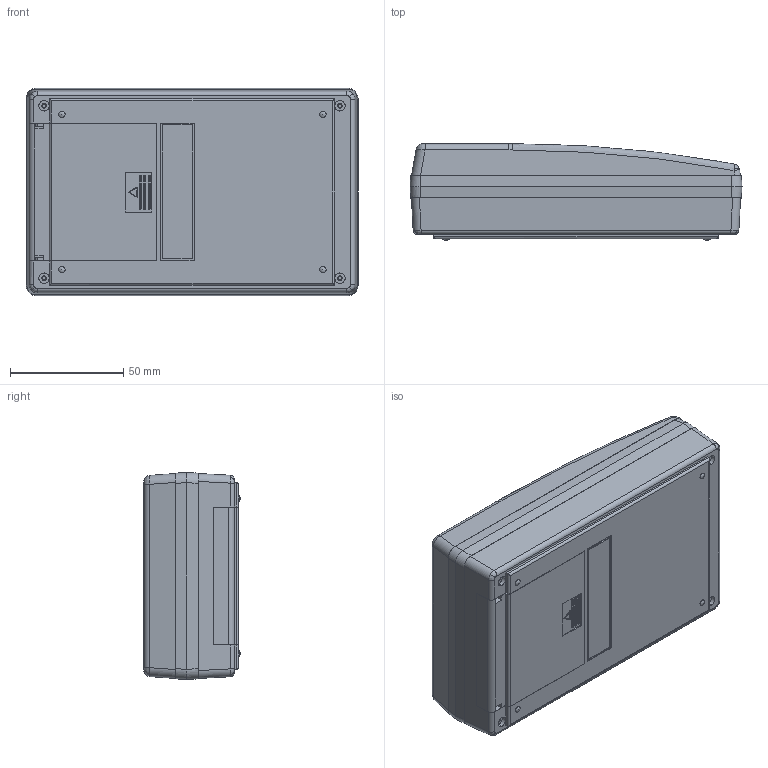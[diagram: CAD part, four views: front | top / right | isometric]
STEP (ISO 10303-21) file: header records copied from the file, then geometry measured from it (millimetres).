
FILE_DESCRIPTION (( 'STEP AP214' ), '1' );
FILE_NAME ('90-63-3A-E-R.STEP', '2020-11-01T20:52:26', ( 'Rudy' ), ( '' ), 'SwSTEP 2.0', 'SolidWorks 2014', '' );
FILE_SCHEMA (( 'AUTOMOTIVE_DESIGN' ));
Length unit declared in the file: inch
Products named in the file (6): 90 PCB 3AA; 90 expander; 3AAdoor; 90-Top Sloped Recessed; 90-3AA; 90-63-3A-E-R
Assembly tree (5 placements, depth 2):
  90-63-3A-E-R
    90-3AA
    90-Top Sloped Recessed
    3AAdoor
    90 expander
    90 PCB 3AA
Bounding box: 146.8 x 42.6 x 91.6 mm (x, y, z)
Volume: 143487.9 mm3; surface area: 124140.2 mm2
Topology: 5 solids, 5 shells, 771 faces, 2084 edges, 1337 vertices
Faces by surface type: plane 491, cylinder 175, cone 52, torus 24, bspline 19, sphere 10
Entity records: 24598 total; most frequent: CARTESIAN_POINT 5134, ORIENTED_EDGE 4128, DIRECTION 3850, EDGE_CURVE 2064, VECTOR 1456, LINE 1456, VERTEX_POINT 1329, AXIS2_PLACEMENT_3D 1197
